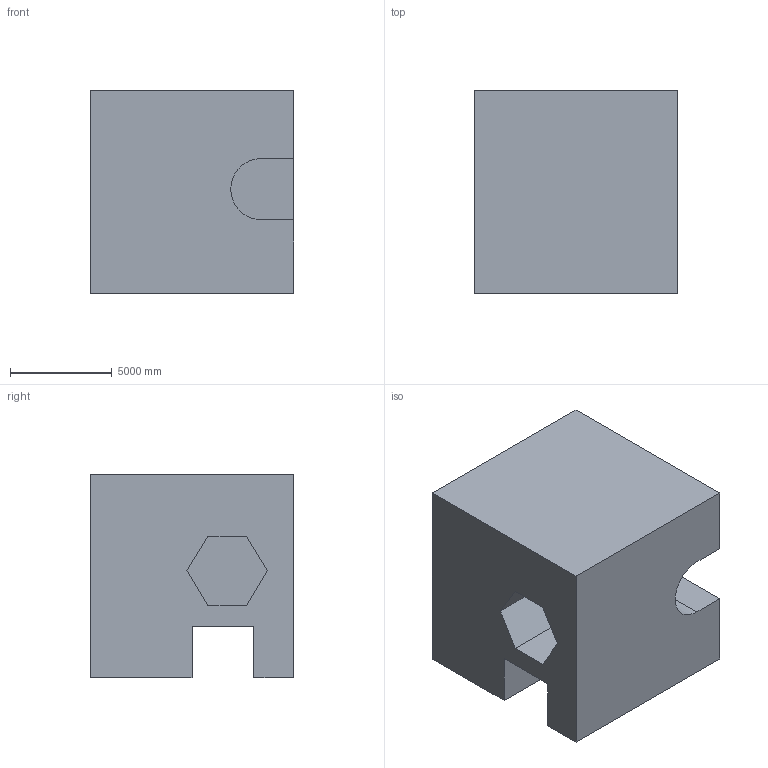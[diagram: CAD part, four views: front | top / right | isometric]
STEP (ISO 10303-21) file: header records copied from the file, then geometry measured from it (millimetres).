
FILE_DESCRIPTION (( 'STEP AP203' ), '1' );
FILE_NAME ('328.STEP', '2022-07-28T14:21:35', ( 'user' ), ( '' ), 'SwSTEP 2.0', 'SolidWorks 2021', '' );
FILE_SCHEMA (( 'CONFIG_CONTROL_DESIGN' ));
Length unit declared in the file: centimetre
Products named in the file (1): 328
Bounding box: 10000 x 10000 x 10000 mm (x, y, z)
Volume: 802217515267.6 mm3; surface area: 730689240.8 mm2
Topology: 1 solids, 1 shells, 25 faces, 66 edges, 44 vertices
Faces by surface type: plane 23, cylinder 2
Entity records: 841 total; most frequent: CARTESIAN_POINT 136, ORIENTED_EDGE 132, DIRECTION 122, EDGE_CURVE 66, LINE 62, VECTOR 62, VERTEX_POINT 44, AXIS2_PLACEMENT_3D 30
